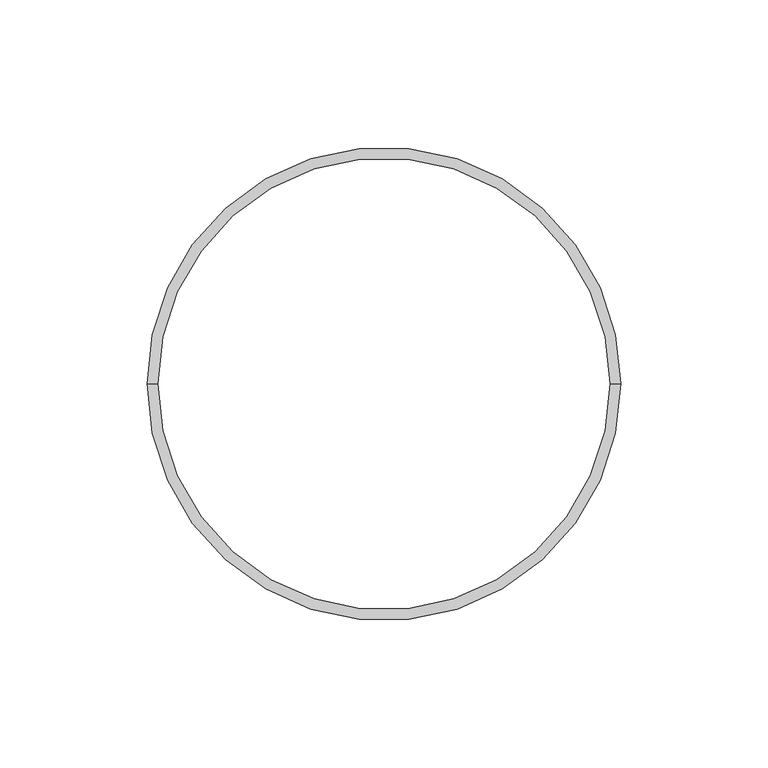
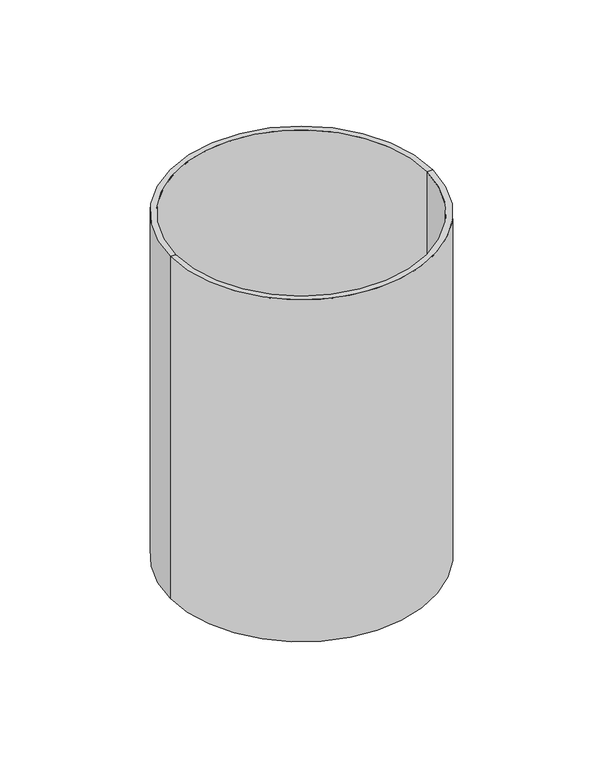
"""IFC4 building model written with IfcOpenShell, lengths in millimetres: pipe fitting geometry, AmancoWavin_ConexõesdeTubos_SaneamentoEsgotoNãoUsarProlongamento : Novafort."""

import ifcopenshell
import ifcopenshell.guid

model = None  # the IFC model being written
_history = None  # IfcOwnerHistory: only IFC2X3 demands one
_inside = {}  # id of a spatial element -> (the spatial element, [elements in it])
_under = {}  # id of a project, library or spatial element -> (it, [spatial elements below it])
_declared = {}  # id of a project -> (the project, [libraries it declares])
_typed = {}  # id of a type object -> (the type object, [elements of that type])
_made_of = {}  # id of a material, layer set ... -> (it, [elements and type objects made of it])


def new_model(schema):
    """Start an empty IFC model of exactly this schema.

    Asked for "IFC4X3", IfcOpenShell would pick the latest addendum, in which some entities
    have other attributes; the version numbers below select the first issue.
    IFC2X3 requires an IfcOwnerHistory on every rooted entity: one is made here for all.
    """
    global model, _history
    if schema == "IFC4X3":
        model = ifcopenshell.file(schema_version=(4, 3, 0, 0))
    else:
        model = ifcopenshell.file(schema=schema)
    _inside.clear()
    _under.clear()
    _declared.clear()
    _typed.clear()
    _made_of.clear()
    _history = None
    if model.schema == "IFC2X3":
        org = make("IfcOrganization", Name="unknown")
        user = make(
            "IfcPersonAndOrganization",
            ThePerson=make("IfcPerson", FamilyName="unknown"),
            TheOrganization=org,
        )
        app = make(
            "IfcApplication",
            ApplicationDeveloper=org,
            Version="unknown",
            ApplicationFullName="unknown",
            ApplicationIdentifier="unknown",
        )
        _history = make(
            "IfcOwnerHistory",
            OwningUser=user,
            OwningApplication=app,
            ChangeAction="ADDED",
            CreationDate=0,
        )
    return model


def make(cls, **values):
    """One entity of the class cls with the attributes given. An attribute that is None is left unset."""
    return model.create_entity(
        cls, **{name: value for name, value in values.items() if value is not None}
    )


def rooted(cls, **values):
    """An entity with a GlobalId (a new one), such as an element, a storey or a relation."""
    return make(cls, GlobalId=ifcopenshell.guid.new(), OwnerHistory=_history, **values)


def si_unit(unit_type, name, prefix=None):
    """IfcSIUnit, for example si_unit("LENGTHUNIT", "METRE", prefix="MILLI")."""
    return make("IfcSIUnit", UnitType=unit_type, Prefix=prefix, Name=name)


def assignment(units):
    """IfcUnitAssignment: the units of a project."""
    return None if units is None else make("IfcUnitAssignment", Units=units)


def point(xyz):
    """IfcCartesianPoint."""
    return None if xyz is None else make("IfcCartesianPoint", Coordinates=xyz)


def direction(xyz):
    """IfcDirection."""
    return None if xyz is None else make("IfcDirection", DirectionRatios=xyz)


def frame(location, z_axis=None, x_axis=None):
    """IfcAxis2Placement3D, a coordinate frame: its origin and axes. An axis left out is left unset."""
    return make(
        "IfcAxis2Placement3D",
        Location=point(location),
        Axis=direction(z_axis),
        RefDirection=direction(x_axis),
    )


def origin():
    """The frame at (0, 0, 0) with its axes left unset."""
    return frame((0.0, 0.0, 0.0))


def place(relative_to, where):
    """IfcLocalPlacement: puts the frame where relative to a parent placement (None: the world)."""
    return make(
        "IfcLocalPlacement", PlacementRelTo=relative_to, RelativePlacement=where
    )


def context(
    kind, dimensions, precision=None, world=None, true_north=None, identifier=None
):
    """IfcGeometricRepresentationContext, for example the 3D "Model" context."""
    return make(
        "IfcGeometricRepresentationContext",
        ContextIdentifier=identifier,
        ContextType=kind,
        CoordinateSpaceDimension=dimensions,
        Precision=precision,
        WorldCoordinateSystem=world,
        TrueNorth=true_north,
    )


def project(units=None, contexts=None):
    """IfcProject with its units and contexts."""
    return rooted(
        "IfcProject",
        Name="project",
        RepresentationContexts=contexts,
        UnitsInContext=assignment(units),
    )


def spatial(cls, under=None, at=None, **own):
    """A site, building, storey or space (cls), placed at a placement, below another one or the project."""
    s = rooted(cls, ObjectPlacement=at, **own)
    if under is not None:
        _under.setdefault(under.id(), (under, []))[1].append(s)
    return s


def polyline(points):
    """IfcPolyline through the points."""
    return make("IfcPolyline", Points=[point(p) for p in points])


def circle_curve(where, radius):
    """IfcCircle in the frame where."""
    return make("IfcCircle", Position=where, Radius=radius)


def shape(context_of_items, identifier, shape_type, items):
    """IfcShapeRepresentation: the items that make up one representation, for example the "Body"."""
    return make(
        "IfcShapeRepresentation",
        ContextOfItems=context_of_items,
        RepresentationIdentifier=identifier,
        RepresentationType=shape_type,
        Items=items,
    )


def source(mapping_origin, context_of_items, identifier, shape_type, items):
    """IfcRepresentationMap: a shape defined once, which mapped items show again and again."""
    return make(
        "IfcRepresentationMap",
        MappingOrigin=mapping_origin,
        MappedRepresentation=shape(context_of_items, identifier, shape_type, items),
    )


def transform(
    local_origin,
    x_axis=None,
    y_axis=None,
    z_axis=None,
    scale=None,
    scale2=None,
    scale3=None,
    uniform=True,
):
    """IfcCartesianTransformationOperator3D, or its non-uniform kind. x_axis, y_axis, z_axis: its Axis1, 2, 3."""
    if uniform:
        return make(
            "IfcCartesianTransformationOperator3D",
            Axis1=direction(x_axis),
            Axis2=direction(y_axis),
            LocalOrigin=point(local_origin),
            Scale=scale,
            Axis3=direction(z_axis),
        )
    return make(
        "IfcCartesianTransformationOperator3DnonUniform",
        Axis1=direction(x_axis),
        Axis2=direction(y_axis),
        LocalOrigin=point(local_origin),
        Scale=scale,
        Axis3=direction(z_axis),
        Scale2=scale2,
        Scale3=scale3,
    )


def mapped(mapping_source, mapping_target):
    """IfcMappedItem: shows the shape of a source again, moved by a transform."""
    return make(
        "IfcMappedItem", MappingSource=mapping_source, MappingTarget=mapping_target
    )


def made_of(thing, what):
    """Note that an element or type object is made of a material, layer set ...; save() writes the relation."""
    if what is not None:
        _made_of.setdefault(what.id(), (what, []))[1].append(thing)
    return thing


def element(
    cls,
    number,
    at=None,
    inside=None,
    cuts=None,
    type_object=None,
    material=None,
    context=None,
    identifier="Body",
    shape_type=None,
    held_by="IfcProductDefinitionShape",
    body=None,
    shapes=None,
    **own,
):
    """One element of the class cls, such as IfcWall. Its Tag is "e" and its number.

    at: its placement. inside: the storey or other place that contains it. cuts: it is an
    opening in that element (IfcRelVoidsElement). A single representation is given by context,
    identifier, shape_type and body (its items); several are given by shapes. held_by: the class
    of the entity that holds the representations. save() writes the other relations.
    """
    e = rooted(cls, Tag="e%d" % number, ObjectPlacement=at, **own)
    if body is not None:
        shapes = [shape(context, identifier, shape_type, body)]
    if shapes is not None:
        e.Representation = make(held_by, Representations=shapes)
    if inside is not None:
        _inside.setdefault(inside.id(), (inside, []))[1].append(e)
    if cuts is not None:
        rooted(
            "IfcRelVoidsElement", RelatingBuildingElement=cuts, RelatedOpeningElement=e
        )
    if type_object is not None:
        _typed.setdefault(type_object.id(), (type_object, []))[1].append(e)
    return made_of(e, material)


def aggregate(whole, parts):
    """IfcRelAggregates: a whole, such as a stair, and the parts it consists of."""
    return rooted("IfcRelAggregates", RelatingObject=whole, RelatedObjects=parts)


def save(model, path):
    """Write the relations noted so far, then the file.

    IfcRelAggregates (storeys below a building ...), IfcRelContainedInSpatialStructure (elements
    in a storey), IfcRelDefinesByType, IfcRelAssociatesMaterial and IfcRelDeclares: one each for
    every whole, place, type object, material and project.
    """
    for whole, parts in _under.values():
        aggregate(whole, parts)
    for where, things in _inside.values():
        rooted(
            "IfcRelContainedInSpatialStructure",
            RelatedElements=things,
            RelatingStructure=where,
        )
    for kind, things in _typed.values():
        rooted("IfcRelDefinesByType", RelatedObjects=things, RelatingType=kind)
    for what, things in _made_of.values():
        rooted("IfcRelAssociatesMaterial", RelatedObjects=things, RelatingMaterial=what)
    for by, libraries in _declared.values():
        rooted("IfcRelDeclares", RelatingContext=by, RelatedDefinitions=libraries)
    model.write(path)


def plane_surface(at):
    """IfcPlane: the flat surface through the origin of the frame at, square to its z axis."""
    return make("IfcPlane", Position=at)


def cylinder_surface(at, radius):
    """IfcCylindricalSurface: all points at the distance radius from the z axis of the frame at."""
    return make("IfcCylindricalSurface", Position=at, Radius=radius)


def revolved_surface(curve, axis_point, axis_direction):
    """IfcSurfaceOfRevolution: the curve turned about the line through axis_point along axis_direction."""
    return make(
        "IfcSurfaceOfRevolution",
        SweptCurve=make("IfcArbitraryOpenProfileDef", ProfileType="CURVE", Curve=curve),
        AxisPosition=make("IfcAxis1Placement", Location=point(axis_point), Axis=direction(axis_direction)),
    )


def advanced_brep(points, edges, surfaces, faces):
    """IfcAdvancedBrep: a solid bounded by faces that lie on surfaces and meet in shared edges.

    An edge is (start, end): straight between two places in points (the first is 0);
    or (start, end, curve); or (start, end, curve, False) where it runs against its curve.
    A face is (place in surfaces, loops), or (place, loops, False) where it looks against
    its surface's normal. A loop lists edges by number (the first is 1), with a minus sign
    where the edge is run from its end to its start. The first loop is the outer one.
    """
    corners = [point(p) for p in points]
    vertices = [make("IfcVertexPoint", VertexGeometry=c) for c in corners]
    made = []
    for start, end, *more in edges:
        made.append(
            make(
                "IfcEdgeCurve",
                EdgeStart=vertices[start],
                EdgeEnd=vertices[end],
                EdgeGeometry=more[0] if more else make("IfcPolyline", Points=[corners[start], corners[end]]),
                SameSense=more[1] if len(more) > 1 else True,
            )
        )
    hull = []
    for where, loops, *sense in faces:
        bounds = []
        for j, loop in enumerate(loops):
            ring = [make("IfcOrientedEdge", EdgeElement=made[abs(k) - 1], Orientation=k > 0) for k in loop]
            bounds.append(
                make(
                    "IfcFaceOuterBound" if j == 0 else "IfcFaceBound",
                    Bound=make("IfcEdgeLoop", EdgeList=ring),
                    Orientation=True,
                )
            )
        hull.append(make("IfcAdvancedFace", Bounds=bounds, FaceSurface=surfaces[where], SameSense=sense[0] if sense else True))
    return make("IfcAdvancedBrep", Outer=make("IfcClosedShell", CfsFaces=hull))


def pipe_fitting_ceb8de90(model_context):
    return source(origin(), model_context, "Body", "AdvancedBrep", [
        advanced_brep(
        [(80.375, 0.0, 0.0), (-80.375, 0.0, 0.0), (-80.375, 0.0, 221.384), (80.375, 0.0, 221.384), (76.775, 0.0, 0.0), (-76.775, 0.0, 0.0), (76.775, 0.0, 221.384), (-76.775, 0.0, 221.384)],
        [
            (0, 1, circle_curve(frame((0.0, 0.0, 0.0), z_axis=(0.0, 0.0, 1.0), x_axis=(-1.0, 0.0, 0.0)), 80.375)),
            (1, 2),
            (2, 3, circle_curve(frame((0.0, 0.0, 221.384), z_axis=(0.0, 0.0, -1.0), x_axis=(-1.0, 0.0, 0.0)), 80.375)),
            (3, 0),
            (1, 0, circle_curve(frame((0.0, 0.0, 0.0), z_axis=(0.0, 0.0, 1.0), x_axis=(-1.0, 0.0, 0.0)), 80.375)),
            (3, 2, circle_curve(frame((0.0, 0.0, 221.384), z_axis=(0.0, 0.0, -1.0), x_axis=(-1.0, 0.0, 0.0)), 80.375)),
            (4, 5, circle_curve(frame((0.0, 0.0, 0.0), z_axis=(0.0, 0.0, 1.0), x_axis=(-1.0, 0.0, 0.0)), 76.775)),
            (5, 1),
            (0, 4),
            (5, 4, circle_curve(frame((0.0, 0.0, 0.0), z_axis=(0.0, 0.0, 1.0), x_axis=(-1.0, 0.0, 0.0)), 76.775)),
            (6, 7, circle_curve(frame((0.0, 0.0, 221.384), z_axis=(0.0, 0.0, 1.0), x_axis=(-1.0, 0.0, 0.0)), 76.775)),
            (7, 5),
            (4, 6),
            (7, 6, circle_curve(frame((0.0, 0.0, 221.384), z_axis=(0.0, 0.0, 1.0), x_axis=(-1.0, 0.0, 0.0)), 76.775)),
            (2, 7),
            (6, 3),
        ],
        [
            cylinder_surface(frame((0.0, 0.0, 1703.9990031), z_axis=(0.0, 0.0, -1.0), x_axis=(-1.0, 0.0, 0.0)), 80.375),
            plane_surface(frame((0.0, 0.0, 0.0), z_axis=(0.0, 0.0, -1.0), x_axis=(-1.0, 0.0, 0.0))),
            revolved_surface(polyline([(-76.775, 0.0, 0.0), (-76.775, 0.0, 221.38400000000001)]), (0.0, 0.0, 1703.9990031), (0.0, 0.0, -1.0)),
            plane_surface(frame((0.0, 0.0, 221.384), z_axis=(0.0, 0.0, 1.0), x_axis=(-1.0, 0.0, 0.0))),
        ],
        [
            (0, [[1, 2, 3, 4]]),
            (0, [[5, -4, 6, -2]]),
            (1, [[7, 8, -1, 9]]),
            (1, [[10, -9, -5, -8]]),
            (2, [[11, 12, -7, 13]]),
            (2, [[14, -13, -10, -12]]),
            (3, [[-3, 15, -11, 16]]),
            (3, [[-6, -16, -14, -15]]),
        ],
    ),
    ])


if __name__ == "__main__":
    model = new_model("IFC4")
    model_context = context("Model", 3, world=origin())
    ifc_project = project(units=[si_unit("LENGTHUNIT", "METRE", prefix="MILLI")], contexts=[model_context])
    site = spatial("IfcSite", under=ifc_project)
    building = spatial("IfcBuilding", under=site)
    placement = place(None, origin())
    pipe_fitting_shape = pipe_fitting_ceb8de90(model_context)
    element("IfcPipeFitting", 1, ObjectType="AmancoWavin_ConexõesdeTubos_SaneamentoEsgotoNãoUsarProlongamento : Novafort", at=placement, inside=building, context=model_context, shape_type="MappedRepresentation", body=[
        mapped(pipe_fitting_shape, transform((0.0, 0.0, 0.0), x_axis=(1.0, 0.0, 0.0), y_axis=(0.0, 1.0, 0.0), z_axis=(0.0, 0.0, 1.0))),
    ])
    save(model, "model.ifc")
